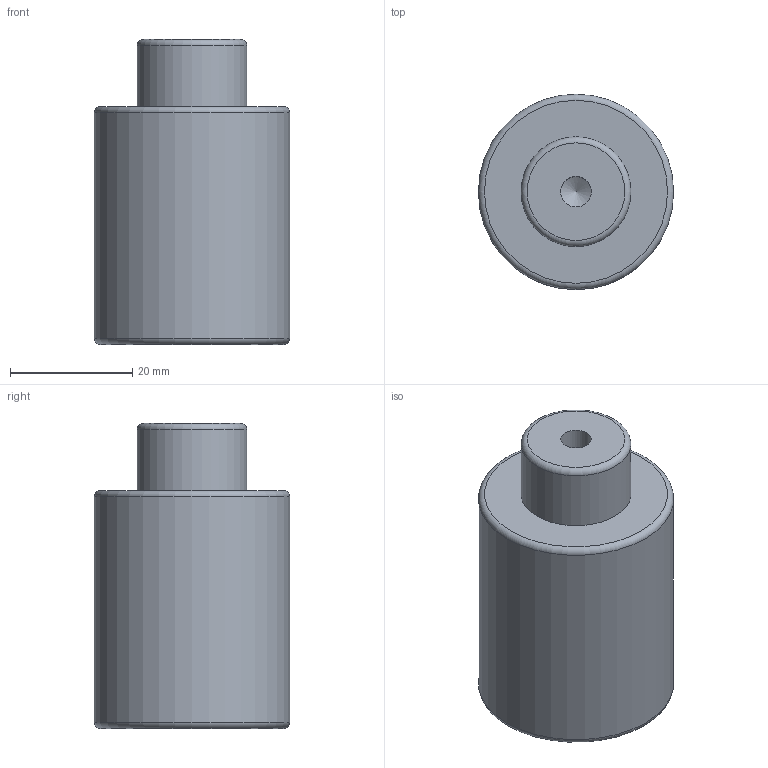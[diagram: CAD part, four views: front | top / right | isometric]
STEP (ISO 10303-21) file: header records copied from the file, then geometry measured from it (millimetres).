
FILE_DESCRIPTION(/* description */ (''),/* implementation_level */ '2;1');
FILE_NAME(/* name */ 'NV5-SMLX.32x10.stp',/* time_stamp */ '2018-08-31T16:08:37+02:00',/* author */ (''),/* organization */ (''),/* preprocessor_version */ 'ST-DEVELOPER v16',/* originating_system */ 'SIEMENS PLM Software NX 10.0',/* authorisation */ '');
FILE_SCHEMA (('AUTOMOTIVE_DESIGN { 1 0 10303 214 3 1 1 1 }'));
Length unit declared in the file: millimetre
Products named in the file (1): NV5-SMLX.32x10
Bounding box: 32 x 32 x 50 mm (x, y, z)
Volume: 33658.8 mm3; surface area: 6391.5 mm2
Topology: 1 solids, 1 shells, 12 faces, 24 edges, 15 vertices
Faces by surface type: cylinder 4, torus 3, plane 3, cone 2
Full cylindrical faces by diameter (mm): 5 x2, 18 x1, 32 x1
Entity records: 266 total; most frequent: DIRECTION 48, CARTESIAN_POINT 37, FACE_BOUND 24, AXIS2_PLACEMENT_3D 24, EDGE_LOOP 22, ORIENTED_EDGE 22, VERTEX_POINT 13, ADVANCED_FACE 12
